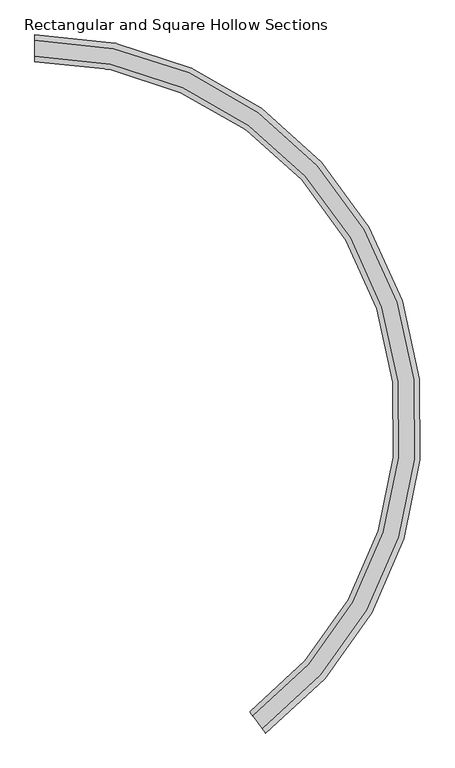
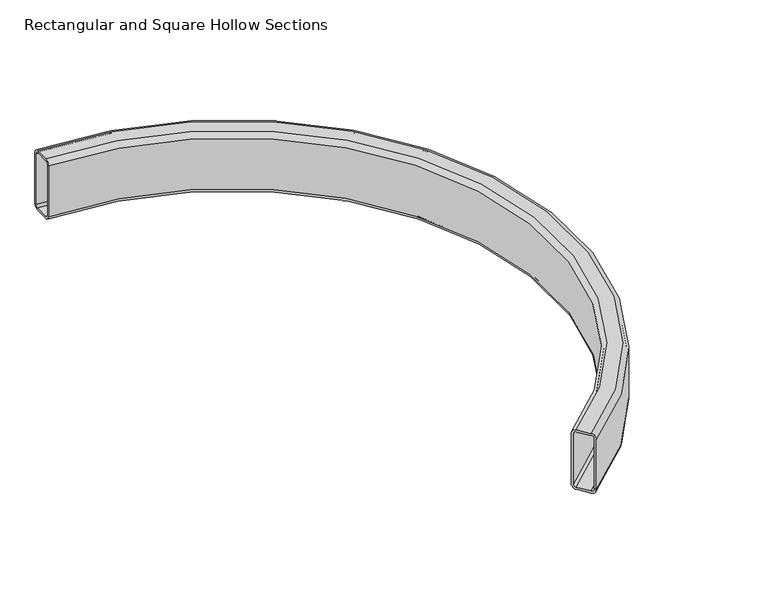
"""IFC4 building model written with IfcOpenShell, lengths in millimetres: beam geometry, Rectangular and Square Hollow Sections : TREC160x60x6."""

from ifc_helpers import new_model, si_unit, point, frame, origin, place, context, project, spatial, polyline, circle_curve, ellipse_curve, trimmed, source, transform, mapped, element, save
from ifc_brep_helpers import plane_surface, cylinder_surface, revolved_surface, advanced_brep


def rectangular_and_square_hollow_sections_ded12cfc(model_context):
    return source(origin(), model_context, "Body", "AdvancedBrep", [
        advanced_brep(
        [(519.6271351, -1540.2523711, 68.0), (512.4689442, -1530.6211561, 80.0), (490.9943714, -1501.7275111, 80.0), (483.8361805, -1492.0962961, 68.0), (483.8361805, -1492.0962961, -68.0), (490.9943714, -1501.7275111, -80.0), (512.4689442, -1530.6211561, -80.0), (519.6271351, -1540.2523711, -68.0), (490.9943714, -1501.7275111, 74.0), (512.4689442, -1530.6211561, 74.0), (516.0480397, -1535.4367636, 68.0), (516.0480397, -1535.4367636, -68.0), (512.4689442, -1530.6211561, -74.0), (490.9943714, -1501.7275111, -74.0), (487.4152759, -1496.9119036, -68.0), (487.4152759, -1496.9119036, 68.0), (0.0, 30.0, 68.0), (0.0, 30.0, -68.0), (0.0, 18.0, -80.0), (0.0, -18.0, -80.0), (0.0, -30.0, -68.0), (0.0, -30.0, 68.0), (0.0, -18.0, 80.0), (0.0, 18.0, 80.0), (0.0, -18.0, 74.0), (0.0, -24.0, 68.0), (0.0, -24.0, -68.0), (0.0, -18.0, -74.0), (0.0, 18.0, -74.0), (0.0, 24.0, -68.0), (0.0, 24.0, 68.0), (0.0, 18.0, 74.0)],
        [
            (0, 1, circle_curve(frame((512.4689442, -1530.6211561, 68.0), z_axis=(-0.80260125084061, -0.5965159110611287, 0.0), x_axis=(-0.5965159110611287, 0.80260125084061, 0.0)), 12.0)),
            (1, 2),
            (2, 3, circle_curve(frame((490.9943714, -1501.7275111, 68.0), z_axis=(-0.80260125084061, -0.5965159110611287, 0.0), x_axis=(-0.5965159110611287, 0.80260125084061, 0.0)), 12.0)),
            (3, 4),
            (4, 5, circle_curve(frame((490.9943714, -1501.7275111, -68.0), z_axis=(-0.80260125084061, -0.5965159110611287, 0.0), x_axis=(-0.5965159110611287, 0.80260125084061, 0.0)), 12.0)),
            (5, 6),
            (6, 7, circle_curve(frame((512.4689442, -1530.6211561, -68.0), z_axis=(-0.80260125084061, -0.5965159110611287, 0.0), x_axis=(-0.5965159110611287, 0.80260125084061, 0.0)), 12.0)),
            (7, 0),
            (8, 9),
            (9, 10, circle_curve(frame((512.4689442, -1530.6211561, 68.0), z_axis=(0.80260125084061, 0.5965159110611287, 0.0), x_axis=(-0.5965159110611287, 0.80260125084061, 0.0)), 6.0)),
            (10, 11),
            (11, 12, circle_curve(frame((512.4689442, -1530.6211561, -68.0), z_axis=(0.80260125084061, 0.5965159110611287, 0.0), x_axis=(-0.5965159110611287, 0.80260125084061, 0.0)), 6.0)),
            (12, 13),
            (13, 14, circle_curve(frame((490.9943714, -1501.7275111, -68.0), z_axis=(0.80260125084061, 0.5965159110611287, 0.0), x_axis=(-0.5965159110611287, 0.80260125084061, 0.0)), 6.0)),
            (14, 15),
            (15, 8, circle_curve(frame((490.9943714, -1501.7275111, 68.0), z_axis=(0.80260125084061, 0.5965159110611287, 0.0), x_axis=(-0.5965159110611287, 0.80260125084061, 0.0)), 6.0)),
            (16, 17),
            (17, 18, circle_curve(frame((0.0, 18.0, -68.0), z_axis=(-1.0, 0.0, 0.0), x_axis=(0.0, -1.0, 0.0)), 12.0)),
            (18, 19),
            (19, 20, circle_curve(frame((0.0, -18.0, -68.0), z_axis=(-1.0, 0.0, 0.0), x_axis=(0.0, -1.0, 0.0)), 12.0)),
            (20, 21),
            (21, 22, circle_curve(frame((0.0, -18.0, 68.0), z_axis=(-1.0, 0.0, 0.0), x_axis=(0.0, -1.0, 0.0)), 12.0)),
            (22, 23),
            (23, 16, circle_curve(frame((0.0, 18.0, 68.0), z_axis=(-1.0, 0.0, 0.0), x_axis=(0.0, -1.0, 0.0)), 12.0)),
            (24, 25, circle_curve(frame((0.0, -18.0, 68.0), z_axis=(1.0, 0.0, 0.0), x_axis=(0.0, -1.0, 0.0)), 6.0)),
            (25, 26),
            (26, 27, circle_curve(frame((0.0, -18.0, -68.0), z_axis=(1.0, 0.0, 0.0), x_axis=(0.0, -1.0, 0.0)), 6.0)),
            (27, 28),
            (28, 29, circle_curve(frame((0.0, 18.0, -68.0), z_axis=(1.0, 0.0, 0.0), x_axis=(0.0, -1.0, 0.0)), 6.0)),
            (29, 30),
            (30, 31, circle_curve(frame((0.0, 18.0, 68.0), z_axis=(1.0, 0.0, 0.0), x_axis=(0.0, -1.0, 0.0)), 6.0)),
            (31, 24),
            (0, 16, circle_curve(frame((0.0, -841.1035624, 68.0), z_axis=(0.0, 0.0, 1.0), x_axis=(0.0, 1.0, 0.0)), 871.1035624)),
            (23, 1, circle_curve(frame((0.0, -841.1035624, 80.0), z_axis=(0.0, 0.0, -1.0), x_axis=(0.0, 1.0, 0.0)), 859.1035624)),
            (22, 2, circle_curve(frame((0.0, -841.1035624, 80.0), z_axis=(0.0, 0.0, -1.0), x_axis=(0.0, 1.0, 0.0)), 823.1035624)),
            (21, 3, circle_curve(frame((0.0, -841.1035624, 68.0), z_axis=(0.0, 0.0, -1.0), x_axis=(0.0, 1.0, 0.0)), 811.1035624)),
            (20, 4, circle_curve(frame((0.0, -841.1035624, -68.0), z_axis=(0.0, 0.0, -1.0), x_axis=(0.0, 1.0, 0.0)), 811.1035624)),
            (19, 5, circle_curve(frame((0.0, -841.1035624, -80.0), z_axis=(0.0, 0.0, -1.0), x_axis=(0.0, 1.0, 0.0)), 823.1035624)),
            (18, 6, circle_curve(frame((0.0, -841.1035624, -80.0), z_axis=(0.0, 0.0, -1.0), x_axis=(0.0, 1.0, 0.0)), 859.1035624)),
            (17, 7, circle_curve(frame((0.0, -841.1035624, -68.0), z_axis=(0.0, 0.0, -1.0), x_axis=(0.0, 1.0, 0.0)), 871.1035624)),
            (8, 24, circle_curve(frame((0.0, -841.1035624, 74.0), z_axis=(0.0, 0.0, 1.0), x_axis=(0.0, 1.0, 0.0)), 823.1035624)),
            (31, 9, circle_curve(frame((0.0, -841.1035624, 74.0), z_axis=(0.0, 0.0, -1.0), x_axis=(0.0, 1.0, 0.0)), 859.1035624)),
            (30, 10, circle_curve(frame((0.0, -841.1035624, 68.0), z_axis=(0.0, 0.0, -1.0), x_axis=(0.0, 1.0, 0.0)), 865.1035624)),
            (29, 11, circle_curve(frame((0.0, -841.1035624, -68.0), z_axis=(0.0, 0.0, -1.0), x_axis=(0.0, 1.0, 0.0)), 865.1035624)),
            (28, 12, circle_curve(frame((0.0, -841.1035624, -74.0), z_axis=(0.0, 0.0, -1.0), x_axis=(0.0, 1.0, 0.0)), 859.1035624)),
            (27, 13, circle_curve(frame((0.0, -841.1035624, -74.0), z_axis=(0.0, 0.0, -1.0), x_axis=(0.0, 1.0, 0.0)), 823.1035624)),
            (26, 14, circle_curve(frame((0.0, -841.1035624, -68.0), z_axis=(0.0, 0.0, -1.0), x_axis=(0.0, 1.0, 0.0)), 817.1035624)),
            (25, 15, circle_curve(frame((0.0, -841.1035624, 68.0), z_axis=(0.0, 0.0, -1.0), x_axis=(0.0, 1.0, 0.0)), 817.1035624)),
        ],
        [
            plane_surface(frame((501.7316578, -1516.1743336, 0.0), z_axis=(-0.802601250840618, -0.5965159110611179, 0.0), x_axis=(0.0, 0.0, 1.0))),
            plane_surface(frame((0.0, 0.0, 0.0), z_axis=(-1.0, 0.0, 0.0), x_axis=(0.0, 0.0, 1.0))),
            revolved_surface(trimmed(ellipse_curve(frame((0.0, 18.0, 68.0), z_axis=(-1.0, 0.0, 0.0), x_axis=(0.0, -1.0, 0.0)), 12.0, 12.0), [point((0.0, 18.0, 80.0))], [point((0.0, 30.0, 68.0))], True, "CARTESIAN"), (0.0, -841.1035624, 0.0), (0.0, 0.0, -1.0)),
            plane_surface(frame((0.0, -841.1035624, 80.0), z_axis=(0.0, 0.0, 1.0), x_axis=(0.0, 1.0, 0.0))),
            revolved_surface(trimmed(ellipse_curve(frame((0.0, -18.0, 68.0), z_axis=(-1.0, 0.0, 0.0), x_axis=(0.0, -1.0, 0.0)), 12.0, 12.0), [point((0.0, -30.0, 68.0))], [point((0.0, -18.0, 80.0))], True, "CARTESIAN"), (0.0, -841.1035624, 0.0), (0.0, 0.0, -1.0)),
            revolved_surface(polyline([(0.0, -30.0, -68.0), (0.0, -30.0, 68.0)]), (0.0, -841.1035624, 0.0), (0.0, 0.0, -1.0)),
            revolved_surface(trimmed(ellipse_curve(frame((0.0, -18.0, -68.0), z_axis=(-1.0, 0.0, 0.0), x_axis=(0.0, -1.0, 0.0)), 12.0, 12.0), [point((0.0, -18.0, -80.0))], [point((0.0, -30.0, -68.0))], True, "CARTESIAN"), (0.0, -841.1035624, 0.0), (0.0, 0.0, -1.0)),
            plane_surface(frame((0.0, -841.1035624, -80.0), z_axis=(0.0, 0.0, -1.0), x_axis=(0.0, 1.0, 0.0))),
            revolved_surface(trimmed(ellipse_curve(frame((0.0, 18.0, -68.0), z_axis=(-1.0, 0.0, 0.0), x_axis=(0.0, -1.0, 0.0)), 12.0, 12.0), [point((0.0, 30.0, -68.0))], [point((0.0, 18.0, -80.0))], True, "CARTESIAN"), (0.0, -841.1035624, 0.0), (0.0, 0.0, -1.0)),
            cylinder_surface(frame((0.0, -841.1035624, 0.0), z_axis=(0.0, 0.0, -1.0), x_axis=(0.0, 1.0, 0.0)), 871.1035624),
            plane_surface(frame((0.0, -841.1035624, 74.0), z_axis=(0.0, 0.0, -1.0), x_axis=(0.0, 1.0, 0.0))),
            revolved_surface(trimmed(ellipse_curve(frame((0.0, 18.0, 68.0), z_axis=(1.0, 0.0, 0.0), x_axis=(0.0, -1.0, 0.0)), 6.0, 6.0), [point((0.0, 24.0, 68.0))], [point((0.0, 18.0, 74.0))], True, "CARTESIAN"), (0.0, -841.1035624, 0.0), (0.0, 0.0, -1.0)),
            revolved_surface(polyline([(0.0, 24.0, -68.0), (0.0, 24.0, 68.0)]), (0.0, -841.1035624, 0.0), (0.0, 0.0, -1.0)),
            revolved_surface(trimmed(ellipse_curve(frame((0.0, 18.0, -68.0), z_axis=(1.0, 0.0, 0.0), x_axis=(0.0, -1.0, 0.0)), 6.0, 6.0), [point((0.0, 18.0, -74.0))], [point((0.0, 24.0, -68.0))], True, "CARTESIAN"), (0.0, -841.1035624, 0.0), (0.0, 0.0, -1.0)),
            plane_surface(frame((0.0, -841.1035624, -74.0), z_axis=(0.0, 0.0, 1.0), x_axis=(0.0, 1.0, 0.0))),
            revolved_surface(trimmed(ellipse_curve(frame((0.0, -18.0, -68.0), z_axis=(1.0, 0.0, 0.0), x_axis=(0.0, -1.0, 0.0)), 6.0, 6.0), [point((0.0, -24.0, -68.0))], [point((0.0, -18.0, -74.0))], True, "CARTESIAN"), (0.0, -841.1035624, 0.0), (0.0, 0.0, -1.0)),
            cylinder_surface(frame((0.0, -841.1035624, 0.0), z_axis=(0.0, 0.0, -1.0), x_axis=(0.0, 1.0, 0.0)), 817.1035624),
            revolved_surface(trimmed(ellipse_curve(frame((0.0, -18.0, 68.0), z_axis=(1.0, 0.0, 0.0), x_axis=(0.0, -1.0, 0.0)), 6.0, 6.0), [point((0.0, -18.0, 74.0))], [point((0.0, -24.0, 68.0))], True, "CARTESIAN"), (0.0, -841.1035624, 0.0), (0.0, 0.0, -1.0)),
        ],
        [
            (0, [[1, 2, 3, 4, 5, 6, 7, 8], [9, 10, 11, 12, 13, 14, 15, 16]]),
            (1, [[17, 18, 19, 20, 21, 22, 23, 24], [25, 26, 27, 28, 29, 30, 31, 32]]),
            (2, [[-1, 33, -24, 34]]),
            (3, [[-2, -34, -23, 35]]),
            (4, [[-3, -35, -22, 36]]),
            (5, [[-4, -36, -21, 37]]),
            (6, [[-5, -37, -20, 38]]),
            (7, [[-6, -38, -19, 39]]),
            (8, [[-7, -39, -18, 40]]),
            (9, [[-8, -40, -17, -33]]),
            (10, [[-9, 41, -32, 42]]),
            (11, [[-10, -42, -31, 43]]),
            (12, [[-11, -43, -30, 44]]),
            (13, [[-12, -44, -29, 45]]),
            (14, [[-13, -45, -28, 46]]),
            (15, [[-14, -46, -27, 47]]),
            (16, [[-15, -47, -26, 48]]),
            (17, [[-16, -48, -25, -41]]),
        ],
    ),
    ])


if __name__ == "__main__":
    model = new_model("IFC4")
    model_context = context("Model", 3, world=origin())
    ifc_project = project(units=[si_unit("LENGTHUNIT", "METRE", prefix="MILLI")], contexts=[model_context])
    site = spatial("IfcSite", under=ifc_project)
    building = spatial("IfcBuilding", under=site)
    placement = place(None, origin())
    rectangular_and_square_hollow_sections_shape = rectangular_and_square_hollow_sections_ded12cfc(model_context)
    element("IfcBeam", 1, ObjectType="Rectangular and Square Hollow Sections : TREC160x60x6", at=placement, inside=building, context=model_context, shape_type="MappedRepresentation", body=[
        mapped(rectangular_and_square_hollow_sections_shape, transform((0.0, 0.0, 0.0), x_axis=(1.0, 0.0, 0.0), y_axis=(0.0, 1.0, 0.0), z_axis=(0.0, 0.0, 1.0))),
    ])
    save(model, "model.ifc")
